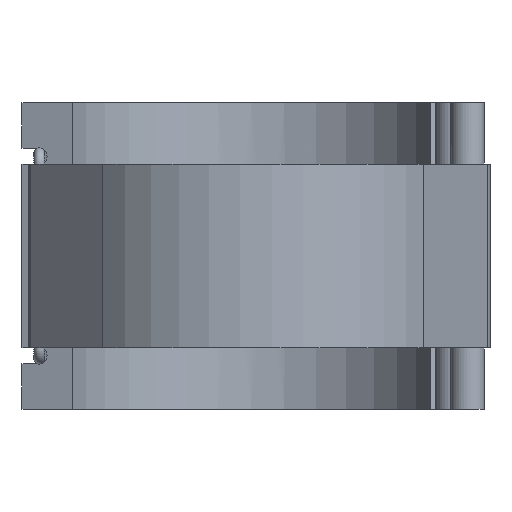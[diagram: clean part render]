
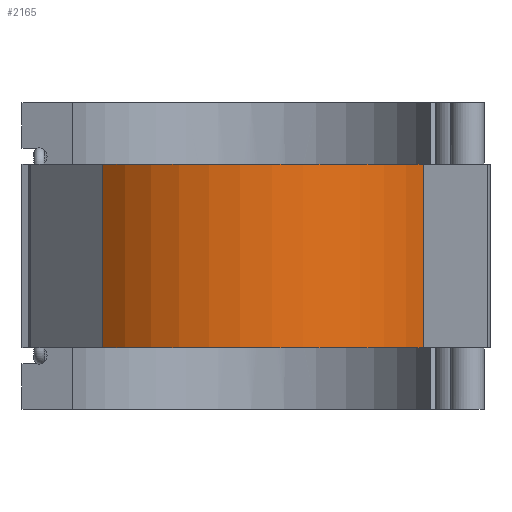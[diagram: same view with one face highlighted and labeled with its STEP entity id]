
A CAD part, front view. The second image highlights one B-rep face of the part: STEP entity #2165.
In plain terms, the highlighted cylindrical face has radius 112.63 mm (diameter 225.261 mm), a partial arc.
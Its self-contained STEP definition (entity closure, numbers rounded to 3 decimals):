
#242=LINE('',#3960,#422);
#243=LINE('',#3962,#423);
#422=VECTOR('',#2990,10.);
#423=VECTOR('',#2993,10.);
#463=CYLINDRICAL_SURFACE('',#2403,112.631);
#569=FACE_OUTER_BOUND('',#702,.T.);
#702=EDGE_LOOP('',(#1870,#1871,#1872,#1873));
#795=CIRCLE('',#2318,112.631);
#804=CIRCLE('',#2328,112.631);
#940=VERTEX_POINT('',#3678);
#941=VERTEX_POINT('',#3680);
#956=VERTEX_POINT('',#3712);
#957=VERTEX_POINT('',#3714);
#1188=EDGE_CURVE('',#940,#941,#795,.T.);
#1205=EDGE_CURVE('',#956,#957,#804,.T.);
#1325=EDGE_CURVE('',#940,#957,#242,.T.);
#1326=EDGE_CURVE('',#941,#956,#243,.T.);
#1870=ORIENTED_EDGE('',*,*,#1325,.T.);
#1871=ORIENTED_EDGE('',*,*,#1205,.F.);
#1872=ORIENTED_EDGE('',*,*,#1326,.F.);
#1873=ORIENTED_EDGE('',*,*,#1188,.F.);
#2165=ADVANCED_FACE('',(#569),#463,.T.);
#2318=AXIS2_PLACEMENT_3D('',#3681,#2731,#2732);
#2328=AXIS2_PLACEMENT_3D('',#3715,#2759,#2760);
#2403=AXIS2_PLACEMENT_3D('',#3961,#2991,#2992);
#2731=DIRECTION('center_axis',(0.,0.,-1.));
#2732=DIRECTION('ref_axis',(0.989,0.151,0.));
#2759=DIRECTION('center_axis',(0.,0.,1.));
#2760=DIRECTION('ref_axis',(0.989,0.151,0.));
#2990=DIRECTION('',(0.,0.,1.));
#2991=DIRECTION('center_axis',(0.,0.,1.));
#2992=DIRECTION('ref_axis',(0.989,0.151,0.));
#2993=DIRECTION('',(0.,0.,1.));
#3678=CARTESIAN_POINT('',(98.697,-54.264,-52.807));
#3680=CARTESIAN_POINT('',(-85.183,-73.685,-52.807));
#3681=CARTESIAN_POINT('Origin',(0.,0.,-52.807));
#3712=CARTESIAN_POINT('',(-85.183,-73.685,52.807));
#3714=CARTESIAN_POINT('',(98.697,-54.264,52.807));
#3715=CARTESIAN_POINT('Origin',(0.,0.,52.807));
#3960=CARTESIAN_POINT('',(98.697,-54.264,0.));
#3961=CARTESIAN_POINT('Origin',(0.,0.,0.));
#3962=CARTESIAN_POINT('',(-85.183,-73.685,0.));
